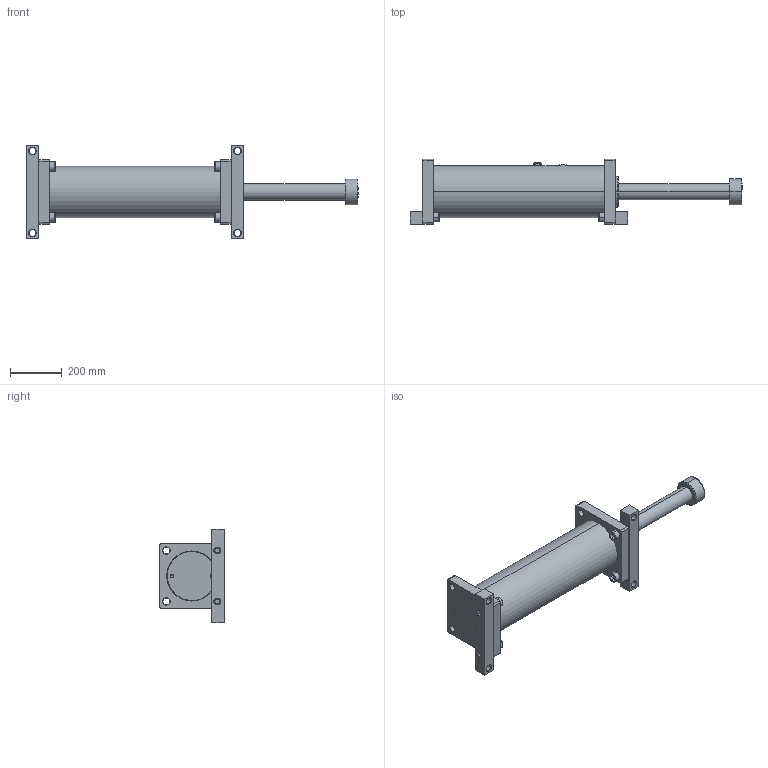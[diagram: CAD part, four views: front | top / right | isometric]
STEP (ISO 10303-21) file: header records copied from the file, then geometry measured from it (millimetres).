
FILE_DESCRIPTION (( 'STEP AP214' ), '1' );
FILE_NAME ('LDD4.0X16.STEP', '2019-01-16T08:46:01', ( 'user' ), ( 'Microsoft' ), 'SwSTEP 2.0', 'SolidWorks 2016', '' );
FILE_SCHEMA (( 'AUTOMOTIVE_DESIGN' ));
Length unit declared in the file: inch
Products named in the file (1): LDD4.0X16
Bounding box: 1284 x 251.5 x 360 mm (x, y, z)
Volume: 14429709.8 mm3; surface area: 1881881 mm2
Topology: 19 solids, 19 shells, 608 faces, 1363 edges, 820 vertices
Faces by surface type: cylinder 194, cone 169, plane 135, bspline 110
Entity records: 23931 total; most frequent: CARTESIAN_POINT 10266, DIRECTION 2939, ORIENTED_EDGE 2694, EDGE_CURVE 1347, AXIS2_PLACEMENT_3D 1213, VERTEX_POINT 820, CIRCLE 714, EDGE_LOOP 703
